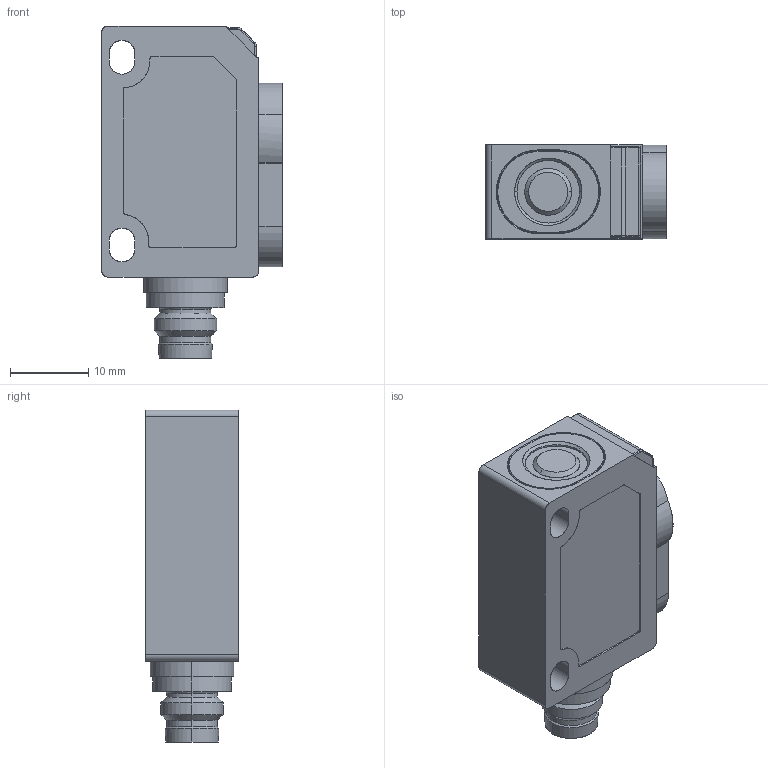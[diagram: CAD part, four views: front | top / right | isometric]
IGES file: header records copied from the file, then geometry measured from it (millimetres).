
Start section: SolidWorks IGES file using analytic representation for surfaces
Global section: file name: Z:\Projekte\Kunststoff-Blechteile\Zeichnungen\Bibliothek Inventor\3D Solids\zws\IGS\zws-24_CX_QS.igs; native system: SolidWorks 2024; preprocessor: SolidWorks 2024; author: Oliver Liedtke; date: 250425.121845; units: millimetre
Bounding box: 23.1 x 12 x 42.45 mm (x, y, z)
Surface area: 3423.3 mm2 (no closed solid volume)
Topology: 0 solids, 0 shells, 143 faces, 1578 edges, 1570 vertices
Faces by surface type: revolution 93, bspline 50
